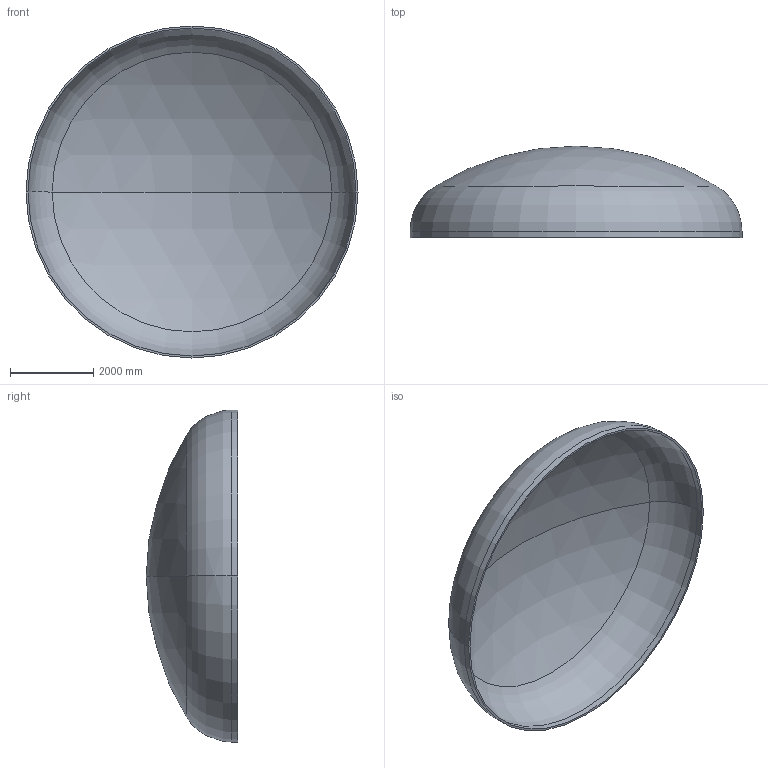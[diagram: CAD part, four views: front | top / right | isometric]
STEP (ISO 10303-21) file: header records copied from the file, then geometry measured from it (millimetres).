
FILE_DESCRIPTION (( 'STEP AP203' ), '1' );
FILE_NAME ('DIN 28013 Korbbogenform_-_Boden DIN 28013 - 8000 x 150 - I - s=48.step', '2016-07-04T11:02:09', ( '' ), ( '' ), 'SwSTEP 2.0', 'SolidWorks 2013', '' );
FILE_SCHEMA (( 'CONFIG_CONTROL_DESIGN' ));
Length unit declared in the file: millimetre
Products named in the file (1): DIN 28013 Korbbogenform_-_Boden DIN 28013 - 8000 x 150 - I - s=48
Bounding box: 8000 x 2202.59 x 8000 mm (x, y, z)
Volume: 3494106431.5 mm3; surface area: 146791670 mm2
Topology: 1 solids, 1 shells, 13 faces, 24 edges, 14 vertices
Faces by surface type: torus 4, cylinder 4, sphere 4, plane 1
Entity records: 407 total; most frequent: DIRECTION 72, CARTESIAN_POINT 52, ORIENTED_EDGE 48, AXIS2_PLACEMENT_3D 34, EDGE_CURVE 24, CIRCLE 20, VERTEX_POINT 14, EDGE_LOOP 14
